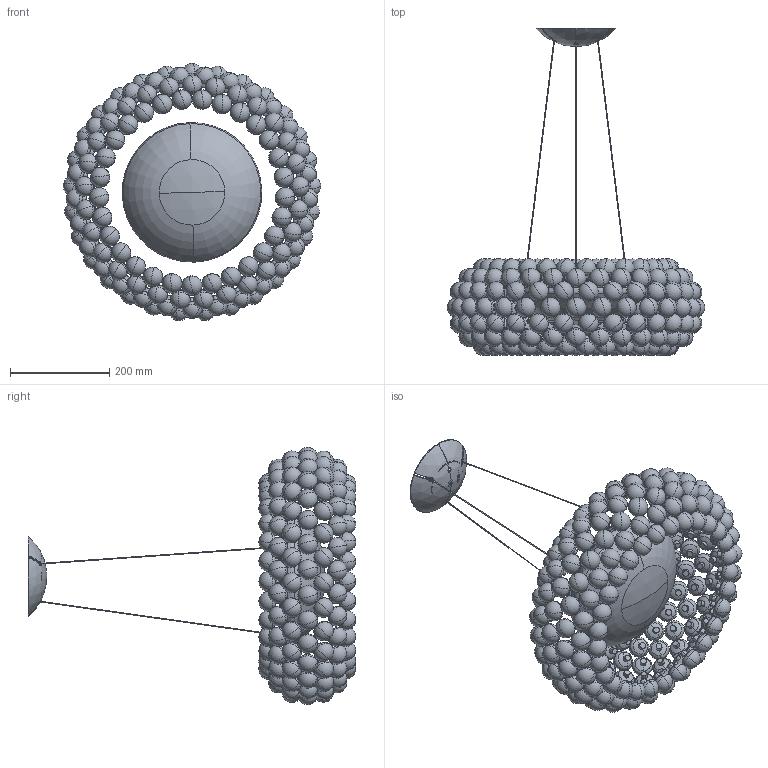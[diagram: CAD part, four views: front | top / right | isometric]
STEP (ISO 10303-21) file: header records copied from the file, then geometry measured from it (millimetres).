
FILE_DESCRIPTION (( 'STEP AP214' ), '1' );
FILE_NAME ('311_MEDIA_S_PL_3D.STEP', '2021-05-26T07:18:29', ( '' ), ( '' ), 'SwSTEP 2.0', 'SolidWorks 2021', '' );
FILE_SCHEMA (( 'AUTOMOTIVE_DESIGN' ));
Length unit declared in the file: millimetre
Products named in the file (1): 311_MEDIA_S_PL_3D
Bounding box: 520.02 x 660.69 x 519.29 mm (x, y, z)
Volume: 6309193.4 mm3; surface area: 1321794.2 mm2
Topology: 212 solids, 212 shells, 2187 faces, 4947 edges, 2798 vertices
Faces by surface type: sphere 835, cylinder 466, torus 456, plane 261, bspline 137, cone 32
Entity records: 87959 total; most frequent: CARTESIAN_POINT 16478, DIRECTION 11075, ORIENTED_EDGE 8270, AXIS2_PLACEMENT_3D 5236, EDGE_CURVE 4135, CIRCLE 3185, UNCERTAINTY_MEASURE_WITH_UNIT 2401, SURFACE_SIDE_STYLE 2400
